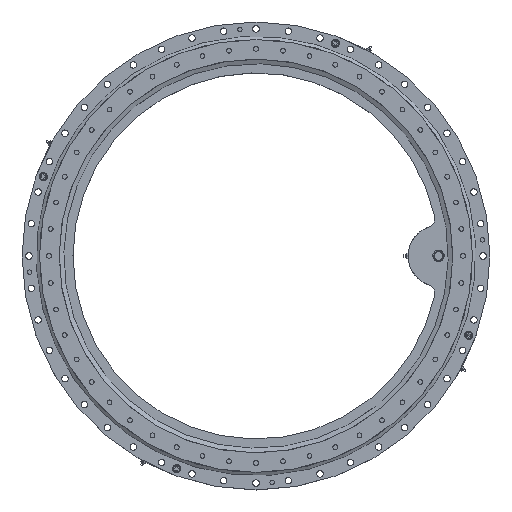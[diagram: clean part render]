
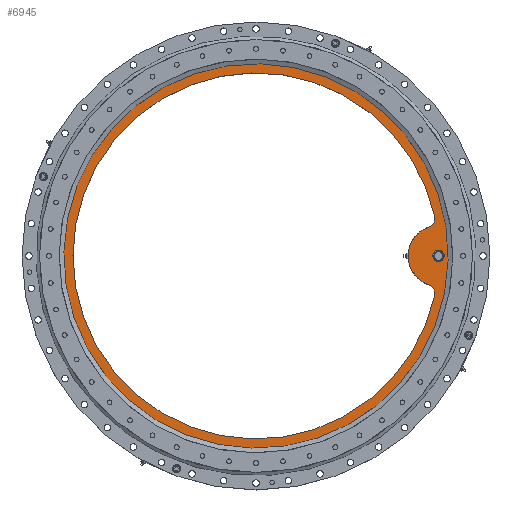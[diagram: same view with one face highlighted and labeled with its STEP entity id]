
A CAD part, top view. The second image highlights one B-rep face of the part: STEP entity #6945.
In plain terms, the highlighted planar face has unit normal (0, 0, 1).
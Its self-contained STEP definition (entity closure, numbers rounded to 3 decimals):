
#49=PLANE('',#7516);
#225=FACE_BOUND('',#959,.T.);
#226=FACE_BOUND('',#960,.T.);
#566=FACE_OUTER_BOUND('',#958,.T.);
#958=EDGE_LOOP('',(#4993));
#959=EDGE_LOOP('',(#4994));
#960=EDGE_LOOP('',(#4995,#4996,#4997,#4998));
#2477=CIRCLE('',#7341,66.);
#2479=CIRCLE('',#7344,397.);
#2592=CIRCLE('',#7514,20.);
#2594=CIRCLE('',#7517,419.);
#2595=CIRCLE('',#7518,10.5);
#2596=CIRCLE('',#7519,20.);
#2991=VERTEX_POINT('',#10382);
#2992=VERTEX_POINT('',#10384);
#2997=VERTEX_POINT('',#10579);
#2998=VERTEX_POINT('',#10580);
#3112=VERTEX_POINT('',#10924);
#3113=VERTEX_POINT('',#10926);
#3700=EDGE_CURVE('',#2991,#2992,#2477,.T.);
#3706=EDGE_CURVE('',#2997,#2998,#2479,.T.);
#3876=EDGE_CURVE('',#2991,#2998,#2592,.T.);
#3878=EDGE_CURVE('',#3112,#3112,#2594,.T.);
#3879=EDGE_CURVE('',#3113,#3113,#2595,.T.);
#3880=EDGE_CURVE('',#2997,#2992,#2596,.T.);
#4993=ORIENTED_EDGE('',*,*,#3878,.T.);
#4994=ORIENTED_EDGE('',*,*,#3879,.T.);
#4995=ORIENTED_EDGE('',*,*,#3706,.F.);
#4996=ORIENTED_EDGE('',*,*,#3880,.T.);
#4997=ORIENTED_EDGE('',*,*,#3700,.F.);
#4998=ORIENTED_EDGE('',*,*,#3876,.T.);
#6945=ADVANCED_FACE('',(#566,#225,#226),#49,.T.);
#7341=AXIS2_PLACEMENT_3D('',#10385,#8198,#8199);
#7344=AXIS2_PLACEMENT_3D('',#10581,#8206,#8207);
#7514=AXIS2_PLACEMENT_3D('',#10921,#8603,#8604);
#7516=AXIS2_PLACEMENT_3D('',#10923,#8607,#8608);
#7517=AXIS2_PLACEMENT_3D('',#10925,#8609,#8610);
#7518=AXIS2_PLACEMENT_3D('',#10927,#8611,#8612);
#7519=AXIS2_PLACEMENT_3D('',#10928,#8613,#8614);
#8198=DIRECTION('center_axis',(0.,0.,-1.));
#8199=DIRECTION('ref_axis',(1.,0.,0.));
#8206=DIRECTION('center_axis',(0.,0.,1.));
#8207=DIRECTION('ref_axis',(1.,0.,0.));
#8603=DIRECTION('center_axis',(0.,0.,-1.));
#8604=DIRECTION('ref_axis',(1.,0.,0.));
#8607=DIRECTION('center_axis',(0.,0.,1.));
#8608=DIRECTION('ref_axis',(1.,0.,0.));
#8609=DIRECTION('center_axis',(0.,0.,1.));
#8610=DIRECTION('ref_axis',(1.,0.,0.));
#8611=DIRECTION('center_axis',(0.,0.,-1.));
#8612=DIRECTION('ref_axis',(-1.,0.,0.));
#8613=DIRECTION('center_axis',(0.,0.,-1.));
#8614=DIRECTION('ref_axis',(1.,0.,0.));
#10382=CARTESIAN_POINT('',(400.035,-60.758,457.578));
#10384=CARTESIAN_POINT('',(400.035,64.112,457.578));
#10385=CARTESIAN_POINT('Origin',(421.433,1.677,457.578));
#10579=CARTESIAN_POINT('',(413.079,87.347,457.578));
#10580=CARTESIAN_POINT('',(413.079,-83.993,457.578));
#10581=CARTESIAN_POINT('Origin',(25.433,1.677,457.578));
#10921=CARTESIAN_POINT('Origin',(393.55,-79.678,457.578));
#10923=CARTESIAN_POINT('Origin',(25.433,1.677,457.578));
#10924=CARTESIAN_POINT('',(-393.567,1.677,457.578));
#10925=CARTESIAN_POINT('Origin',(25.433,1.677,457.578));
#10926=CARTESIAN_POINT('',(431.933,1.677,457.578));
#10927=CARTESIAN_POINT('Origin',(421.433,1.677,457.578));
#10928=CARTESIAN_POINT('Origin',(393.55,83.032,457.578));
